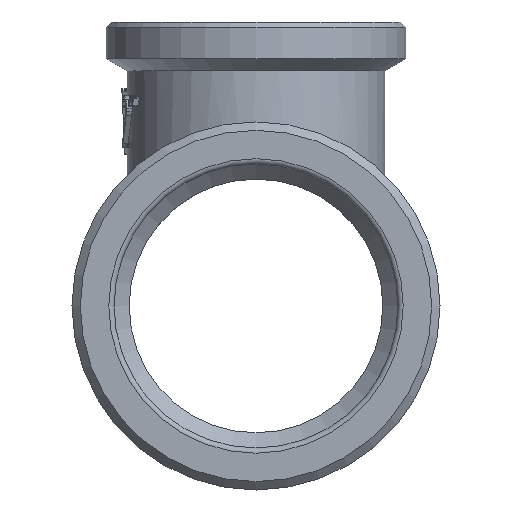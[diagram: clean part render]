
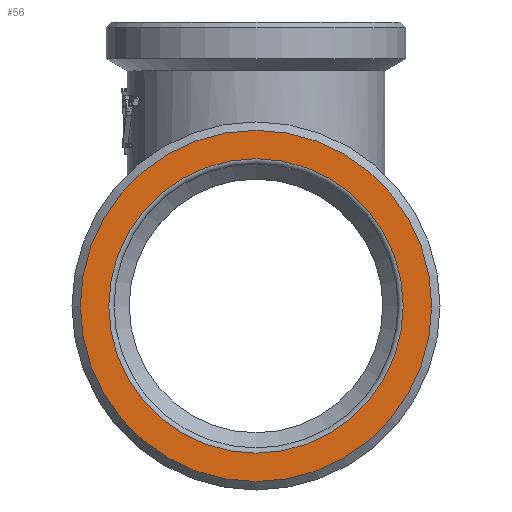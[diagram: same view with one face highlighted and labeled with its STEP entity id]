
A CAD part, front view. The second image highlights one B-rep face of the part: STEP entity #56.
In plain terms, the highlighted planar face has unit normal (0, -1, 0).
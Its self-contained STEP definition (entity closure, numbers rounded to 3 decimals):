
#56=ADVANCED_FACE('',(#512,#514),#516,.F.);
#512=FACE_BOUND('',#513,.T.);
#513=EDGE_LOOP('',(#3178));
#514=FACE_BOUND('',#515,.T.);
#515=EDGE_LOOP('',(#3179));
#516=PLANE('',#517);
#517=AXIS2_PLACEMENT_3D('',#518,#519,#520);
#518=CARTESIAN_POINT('',(0.,-28.,0.));
#519=DIRECTION('',(0.,1.,0.));
#520=DIRECTION('',(-1.,0.,0.));
#3178=ORIENTED_EDGE('',*,*,#5648,.F.);
#3179=ORIENTED_EDGE('',*,*,#5649,.T.);
#5648=EDGE_CURVE('',#6694,#6694,#6695,.T.);
#5649=EDGE_CURVE('',#6696,#6696,#6697,.T.);
#6694=VERTEX_POINT('',#9272);
#6695=CIRCLE('',#9273,16.7);
#6696=VERTEX_POINT('',#9277);
#6697=CIRCLE('',#9278,14.);
#9272=CARTESIAN_POINT('',(-16.7,-28.,0.));
#9273=AXIS2_PLACEMENT_3D('',#9274,#9275,#9276);
#9274=CARTESIAN_POINT('',(0.,-28.,0.));
#9275=DIRECTION('',(0.,1.,0.));
#9276=DIRECTION('',(-1.,0.,0.));
#9277=CARTESIAN_POINT('',(-14.,-28.,0.));
#9278=AXIS2_PLACEMENT_3D('',#9279,#9280,#9281);
#9279=CARTESIAN_POINT('',(0.,-28.,0.));
#9280=DIRECTION('',(0.,1.,0.));
#9281=DIRECTION('',(-1.,0.,0.));
